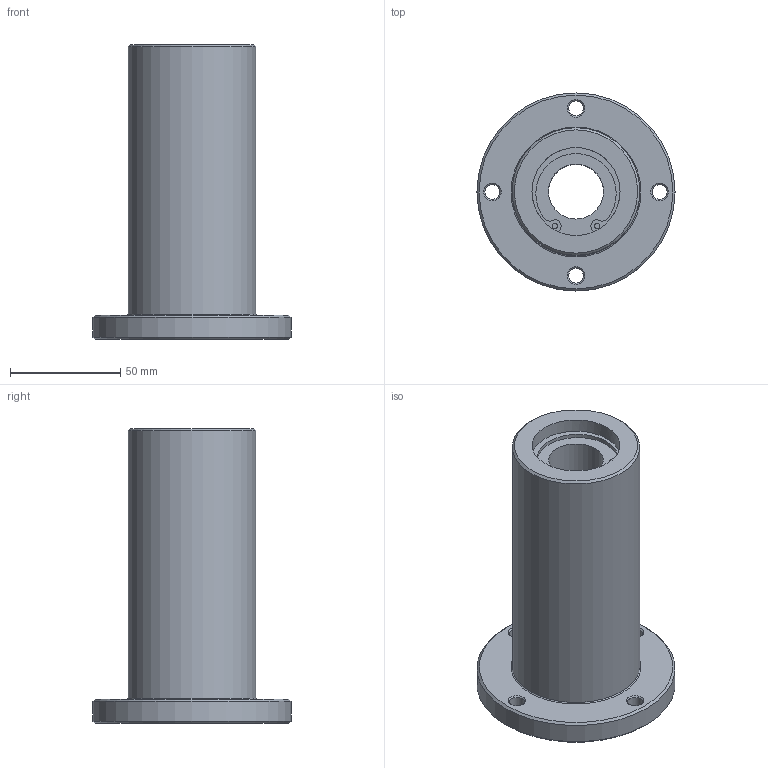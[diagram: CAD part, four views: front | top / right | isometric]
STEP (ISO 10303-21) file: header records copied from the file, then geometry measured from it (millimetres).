
FILE_DESCRIPTION(('STEP AP203'),'1');
FILE_NAME('//192.168.1.1/share/s-4 技術開発/s-4-4_CAD/s-4-4-3_見直し済み/009 修正済み/LCFD-A/LCFD-A_TOP/LCFD-25AVUU.step','2022-02-04T05:55:24',(' '),(' '),'Spatial InterOp 3D',' ',' ');
FILE_SCHEMA(('CONFIG_CONTROL_DESIGN'));
Length unit declared in the file: millimetre
Products named in the file (1): 1
Bounding box: 90 x 90 x 134 mm (x, y, z)
Volume: 314406.3 mm3; surface area: 48752.8 mm2
Topology: 1 solids, 1 shells, 56 faces, 134 edges, 88 vertices
Faces by surface type: cylinder 28, plane 16, cone 11, torus 1
Full cylindrical faces by diameter (mm): 2.5 x4, 6.75 x4, 25 x1, 40 x2, 57.4 x1, 58 x1, 90 x1
Entity records: 1500 total; most frequent: DIRECTION 282, CARTESIAN_POINT 233, ORIENTED_EDGE 196, AXIS2_PLACEMENT_3D 127, EDGE_LOOP 100, EDGE_CURVE 98, VERTEX_POINT 78, FACE_OUTER_BOUND 71
